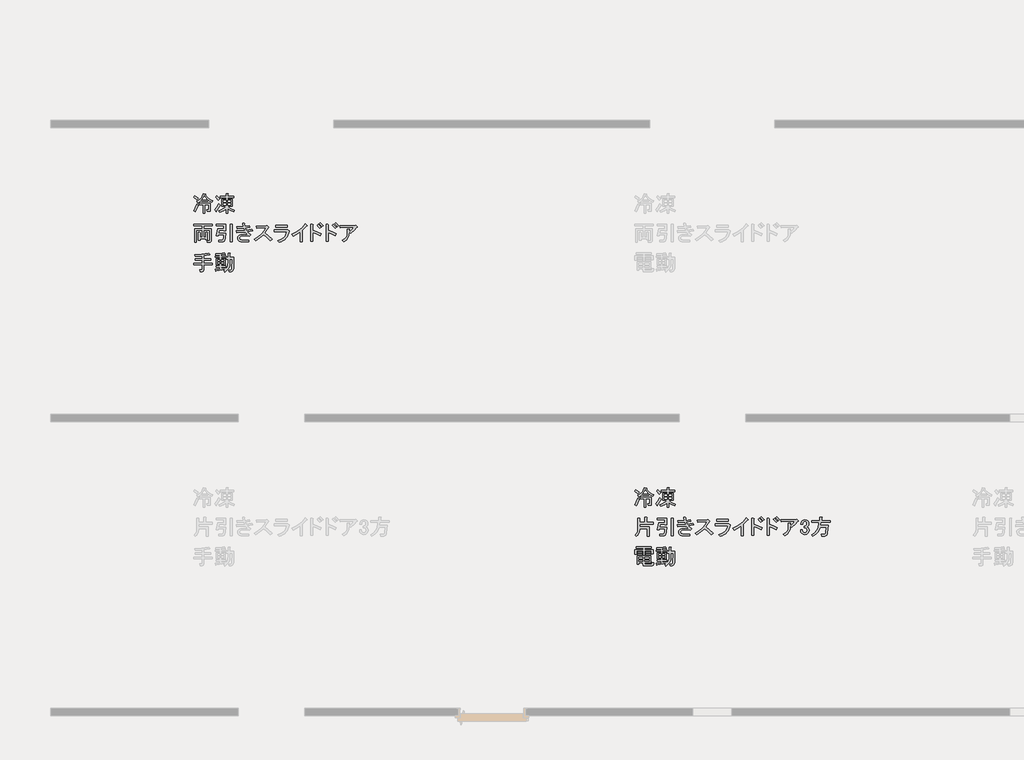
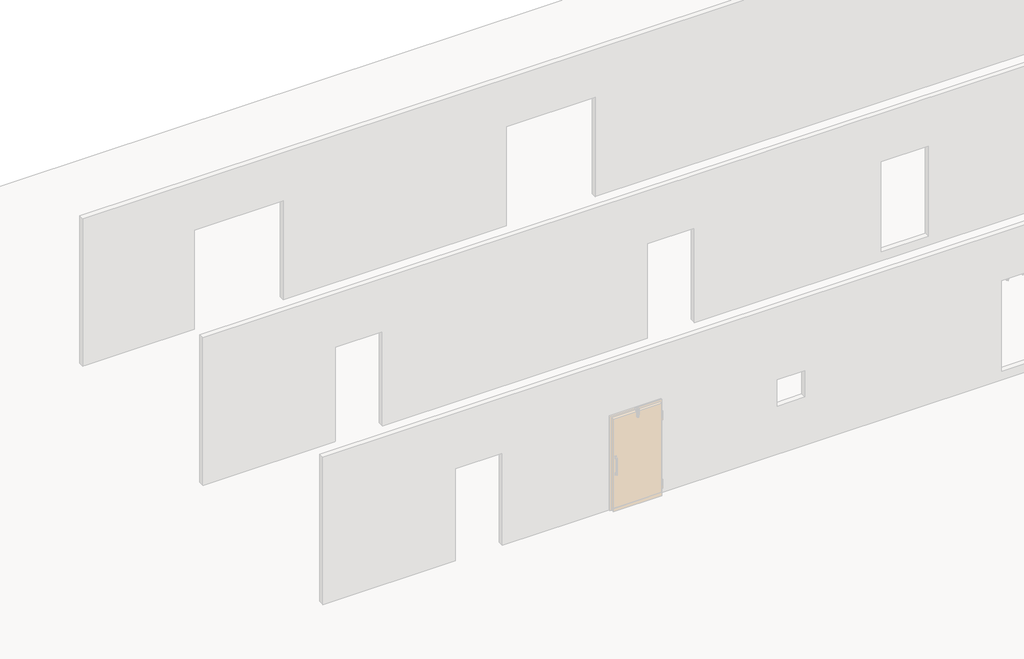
# One storey, part 98 of 117: 2 proxies.
"""IFC4 building model written with IfcOpenShell, lengths in millimetres."""

from ifc_helpers import new_model, si_unit, frame, origin, place, context, project, spatial, polyline, outline, extrude, element, save

model = new_model("IFC4")

# Units and contexts
model_context = context("Model", 3, world=origin())
ifc_project = project(units=[si_unit("LENGTHUNIT", "METRE", prefix="MILLI")], contexts=[model_context])

# Site, building, storey
site = spatial("IfcSite", under=ifc_project)
building = spatial("IfcBuilding", under=site)
storey = spatial("IfcBuildingStorey", under=building, Name="レベル 1", Elevation=500.0)

# Proxies
placement = place(None, origin())
element("IfcBuildingElementProxy", 1, Name="200㎜\u3000MS Pゴシック", ObjectType="200㎜\u3000MS Pゴシック", at=placement, inside=storey, context=model_context, shape_type="SweptSolid", body=[
    extrude(outline(polyline([(4383.6029468, 26948.5050774), (4417.2964447, 26967.9021871), (4443.6621457, 26991.6097656), (4462.7000496, 27019.6278129), (4474.4101566, 27051.9563291), (4505.4455321, 27043.9101206), (4506.882355, 27040.174381), (4501.997157, 27038.1628289), (4520.8195376, 27010.6476696), (4543.9523869, 26987.874026), (4571.3957051, 26969.8418981), (4603.149492, 26956.5512859), (4591.6549085, 26932.4126605), (4562.6310851, 26945.9187961), (4533.0325326, 26965.7469527), (4533.0325326, 26946.2061607), (4450.2715312, 26946.2061607), (4450.2715312, 26964.5974943), (4425.8455412, 26942.7577856), (4396.2469887, 26923.2169937), (4383.6029468, 26948.5050774)]), holes=[polyline([(4530.7336159, 26968.0458694), (4504.5834383, 26995.3455052), (4488.2036568, 27022.0704119), (4474.4101566, 26993.0465885), (4453.7199063, 26968.0458694), (4530.7336159, 26968.0458694)])]), frame((0.0, 0.0, 500.0), z_axis=(0.0, 0.0, 1.0), x_axis=(1.0, 0.0, 0.0)), (0.0, 0.0, 1.0), 25.0),
    extrude(outline(polyline([(4341.0729878, 26822.0646587), (4364.0621548, 26861.7209718), (4382.4534884, 26904.82566), (4403.1437388, 26892.1816181), (4385.6144989, 26848.2148362), (4367.5105299, 26812.8689919), (4366.9358007, 26806.5469709), (4362.9126965, 26805.9722417), (4341.0729878, 26822.0646587)])), frame((0.0, 0.0, 500.0), z_axis=(0.0, 0.0, 1.0), x_axis=(1.0, 0.0, 0.0)), (0.0, 0.0, 1.0), 25.0),
    extrude(outline(polyline([(4420.3856141, 26897.9289099), (4420.3856141, 26919.7686186), (4569.8151998, 26919.7686186), (4569.8151998, 26825.5130337), (4565.7920956, 26814.3058148), (4553.7227829, 26810.5700752), (4528.4346991, 26810.5700752), (4523.8368657, 26832.4097838), (4542.2281994, 26832.4097838), (4545.6765744, 26833.5592422), (4546.8260328, 26837.0076172), (4546.8260328, 26897.9289099), (4492.8014902, 26897.9289099), (4492.8014902, 26786.4314498), (4469.8123232, 26786.4314498), (4469.8123232, 26897.9289099), (4420.3856141, 26897.9289099)])), frame((0.0, 0.0, 500.0), z_axis=(0.0, 0.0, 1.0), x_axis=(1.0, 0.0, 0.0)), (0.0, 0.0, 1.0), 25.0),
    extrude(outline(polyline([(4358.314863, 27022.0704119), (4379.0051134, 27009.1390055), (4401.9942804, 26988.7361197), (4385.9018635, 26965.7469527), (4344.5213628, 27000.2307032), (4358.314863, 27022.0704119)])), frame((0.0, 0.0, 500.0), z_axis=(0.0, 0.0, 1.0), x_axis=(1.0, 0.0, 0.0)), (0.0, 0.0, 1.0), 25.0),
    extrude(outline(polyline([(4652.5762012, 26812.8689919), (4652.8635658, 26808.2711584), (4649.1278261, 26808.2711584), (4629.5870341, 26832.4097838), (4658.0361283, 26868.9050865), (4683.6115767, 26911.7224101), (4702.0029103, 26894.4805349), (4678.7263787, 26852.2379404), (4652.5762012, 26812.8689919)])), frame((0.0, 0.0, 500.0), z_axis=(0.0, 0.0, 1.0), x_axis=(1.0, 0.0, 0.0)), (0.0, 0.0, 1.0), 25.0),
    extrude(outline(polyline([(4659.4729513, 27022.0704119), (4696.2556185, 26981.8393696), (4675.5653682, 26962.2985776), (4639.9321593, 27004.8285366), (4659.4729513, 27022.0704119)])), frame((0.0, 0.0, 500.0), z_axis=(0.0, 0.0, 1.0), x_axis=(1.0, 0.0, 0.0)), (0.0, 0.0, 1.0), 25.0),
    extrude(outline(polyline([(4806.6036203, 26787.5809081), (4783.6144533, 26787.5809081), (4783.6144533, 26849.6516591), (4769.0307005, 26835.4989532), (4749.4180673, 26821.7772941), (4695.1061602, 26795.6271166), (4685.9104934, 26822.0646587), (4715.5090459, 26832.9126719), (4741.0844943, 26845.9159195), (4762.6368384, 26861.0744015), (4780.1660782, 26878.3881179), (4724.9920773, 26878.3881179), (4724.9920773, 26977.2415362), (4783.6144533, 26977.2415362), (4783.6144533, 26996.7823282), (4703.1523687, 26996.7823282), (4703.1523687, 27018.6220369), (4783.6144533, 27018.6220369), (4783.6144533, 27053.1057874), (4805.454162, 27053.1057874), (4810.33936, 27050.8068707), (4806.6036203, 27046.2090373), (4806.6036203, 27018.6220369), (4887.065705, 27018.6220369), (4887.065705, 26996.7823282), (4806.6036203, 26996.7823282), (4806.6036203, 26977.2415362), (4866.3754546, 26977.2415362), (4866.3754546, 26878.3881179), (4807.7530787, 26878.3881179), (4826.1444123, 26862.295701), (4846.8346627, 26848.5022008), (4895.1119134, 26827.8119504), (4884.7667883, 26802.5238667), (4841.6621001, 26823.5014816), (4806.6036203, 26849.6516591), (4806.6036203, 26787.5809081)]), holes=[polyline([(4806.6036203, 26937.0104939), (4846.8346627, 26937.0104939), (4846.8346627, 26958.8502026), (4806.6036203, 26958.8502026), (4806.6036203, 26937.0104939)]), polyline([(4806.6036203, 26896.7794516), (4846.8346627, 26896.7794516), (4846.8346627, 26918.6191602), (4806.6036203, 26918.6191602), (4806.6036203, 26896.7794516)]), polyline([(4744.5328693, 26896.7794516), (4783.6144533, 26896.7794516), (4783.6144533, 26918.6191602), (4744.5328693, 26918.6191602), (4744.5328693, 26896.7794516)]), polyline([(4744.5328693, 26937.0104939), (4783.6144533, 26937.0104939), (4783.6144533, 26958.8502026), (4744.5328693, 26958.8502026), (4744.5328693, 26937.0104939)])]), frame((0.0, 0.0, 500.0), z_axis=(0.0, 0.0, 1.0), x_axis=(1.0, 0.0, 0.0)), (0.0, 0.0, 1.0), 25.0),
    extrude(outline(polyline([(4480.1574484, 26611.7252868), (4480.1574484, 26576.0920778), (4581.3097833, 26576.0920778), (4581.3097833, 26407.1217001), (4577.2866791, 26395.0523874), (4565.2173664, 26391.0292832), (4529.5841575, 26391.0292832), (4526.1357824, 26412.8689919), (4553.7227829, 26412.8689919), (4557.1711579, 26414.0184502), (4558.3206163, 26417.4668253), (4558.3206163, 26554.2523692), (4480.1574484, 26554.2523692), (4480.1574484, 26458.8473259), (4507.7444488, 26458.8473259), (4507.7444488, 26524.366452), (4529.5841575, 26524.366452), (4534.4693555, 26522.0675353), (4530.7336159, 26517.4697019), (4530.7336159, 26426.6624921), (4507.7444488, 26426.6624921), (4507.7444488, 26437.0076172), (4429.5812809, 26437.0076172), (4429.5812809, 26417.4668253), (4406.5921138, 26417.4668253), (4406.5921138, 26524.366452), (4428.4318225, 26524.366452), (4433.3170205, 26522.0675353), (4429.5812809, 26517.4697019), (4429.5812809, 26458.8473259), (4457.1682813, 26458.8473259), (4457.1682813, 26554.2523692), (4379.0051134, 26554.2523692), (4379.0051134, 26392.1787415), (4356.0159463, 26392.1787415), (4356.0159463, 26576.0920778), (4457.1682813, 26576.0920778), (4457.1682813, 26611.7252868), (4342.2224461, 26611.7252868), (4342.2224461, 26633.5649954), (4595.1032836, 26633.5649954), (4595.1032836, 26611.7252868), (4480.1574484, 26611.7252868)])), frame((0.0, 0.0, 500.0), z_axis=(0.0, 0.0, 1.0), x_axis=(1.0, 0.0, 0.0)), (0.0, 0.0, 1.0), 25.0),
    extrude(outline(polyline([(4780.1660782, 26511.7224101), (4770.9704114, 26441.8928152), (4764.6483905, 26419.2628539), (4757.1769112, 26404.8227834), (4746.5444214, 26397.0639395), (4730.7393691, 26394.4776582), (4684.761035, 26394.4776582), (4681.31266, 26416.3173669), (4723.842619, 26416.3173669), (4734.4751088, 26418.328919), (4741.0844943, 26424.3635754), (4749.1307027, 26448.2148362), (4754.8779945, 26489.8827014), (4677.8642849, 26489.8827014), (4675.5653682, 26478.3881179), (4651.4267428, 26481.836493), (4667.5191597, 26574.9426195), (4753.7285361, 26574.9426195), (4753.7285361, 26611.7252868), (4647.9783678, 26611.7252868), (4647.9783678, 26633.5649954), (4776.7177032, 26633.5649954), (4776.7177032, 26547.355619), (4753.7285361, 26547.355619), (4753.7285361, 26553.1029108), (4689.3588684, 26553.1029108), (4682.4621183, 26511.7224101), (4780.1660782, 26511.7224101)])), frame((0.0, 0.0, 500.0), z_axis=(0.0, 0.0, 1.0), x_axis=(1.0, 0.0, 0.0)), (0.0, 0.0, 1.0), 25.0),
    extrude(outline(polyline([(4866.3754546, 26396.7765749), (4843.3862876, 26396.7765749), (4843.3862876, 26637.0133705), (4865.2259963, 26637.0133705), (4870.1111943, 26634.7144538), (4866.3754546, 26630.1166204), (4866.3754546, 26396.7765749)])), frame((0.0, 0.0, 500.0), z_axis=(0.0, 0.0, 1.0), x_axis=(1.0, 0.0, 0.0)), (0.0, 0.0, 1.0), 25.0),
    extrude(outline(polyline([(5046.8404159, 26582.988828), (5060.6339161, 26554.2523692), (5133.0497923, 26570.3447861), (5143.3949175, 26546.2061607), (5073.277958, 26533.5621188), (5093.1061146, 26511.147681), (5118.1068337, 26489.8827014), (5098.5660418, 26470.3419095), (5061.4960099, 26477.2386596), (5033.0469157, 26479.5375763), (4995.1147901, 26476.0892012), (4982.1833836, 26471.7787324), (4973.2750814, 26465.7440761), (4967.240425, 26457.410503), (4965.2288729, 26448.5022008), (4966.9530605, 26438.1570756), (4972.125623, 26430.1108671), (4989.6548629, 26423.214117), (5023.8512489, 26420.9152003), (5093.9682084, 26420.9152003), (5089.3703749, 26395.6271166), (5019.2534155, 26395.6271166), (4980.1718315, 26400.22495), (4965.8036021, 26405.9722417), (4954.8837478, 26414.0184502), (4944.5386226, 26429.8235025), (4941.0902475, 26449.6516591), (4944.251258, 26465.7440761), (4953.7342894, 26479.5375763), (4966.0909667, 26488.0866728), (4983.6202066, 26494.1931703), (5034.196374, 26499.0783683), (5075.5768747, 26495.6299932), (5046.8404159, 26528.9642854), (4990.2295921, 26523.7917228), (4928.4462057, 26522.0675353), (4924.9978306, 26546.2061607), (4981.896019, 26546.7808899), (5035.3458324, 26550.8039941), (5022.7017905, 26579.5404529), (4934.1934974, 26576.0920778), (4931.8945807, 26599.0812449), (5016.9544988, 26601.3801616), (5007.7588319, 26648.507954), (5033.0469157, 26648.507954), (5039.081572, 26645.059579), (5034.196374, 26639.3122872), (5039.9436658, 26604.8285366), (5100.8649585, 26616.3231202), (5108.9111669, 26593.3339531), (5046.8404159, 26582.988828)])), frame((0.0, 0.0, 500.0), z_axis=(0.0, 0.0, 1.0), x_axis=(1.0, 0.0, 0.0)), (0.0, 0.0, 1.0), 25.0),
    extrude(outline(polyline([(5311.2618152, 26517.4697019), (5360.4011598, 26476.6639304), (5408.9657751, 26430.1108671), (5385.9766081, 26410.5700752), (5338.5614511, 26457.1231384), (5292.8704816, 26495.6299932), (5244.8805954, 26449.9390237), (5190.5686883, 26409.4206168), (5168.7289796, 26428.9614088), (5224.1903451, 26468.6177219), (5268.7318562, 26508.2740351), (5302.353513, 26547.9303482), (5325.0553154, 26587.5866614), (5199.7643551, 26579.5404529), (5196.31598, 26607.1274534), (5329.6531489, 26612.8747451), (5343.4466491, 26616.3231202), (5361.8379827, 26597.9317865), (5364.7116286, 26591.322401), (5357.2401493, 26587.5866614), (5311.2618152, 26517.4697019)])), frame((0.0, 0.0, 500.0), z_axis=(0.0, 0.0, 1.0), x_axis=(1.0, 0.0, 0.0)), (0.0, 0.0, 1.0), 25.0),
    extrude(outline(polyline([(5615.1786035, 26597.9317865), (5456.5533509, 26597.9317865), (5456.5533509, 26623.2198703), (5615.1786035, 26623.2198703), (5615.1786035, 26597.9317865)])), frame((0.0, 0.0, 500.0), z_axis=(0.0, 0.0, 1.0), x_axis=(1.0, 0.0, 0.0)), (0.0, 0.0, 1.0), 25.0),
    extrude(outline(polyline([(5485.2898097, 26411.7195335), (5534.9320423, 26430.039026), (5555.1732855, 26442.1622195), (5572.3612799, 26456.2610446), (5586.4960256, 26472.3355013), (5597.5775225, 26490.3855895), (5605.6057707, 26510.4113092), (5610.5807701, 26532.4126605), (5435.8631006, 26532.4126605), (5435.8631006, 26557.7007442), (5611.7302284, 26557.7007442), (5622.0753536, 26561.1491193), (5642.765604, 26548.5050774), (5645.6392498, 26543.0451502), (5640.4666872, 26538.1599522), (5634.3422295, 26510.6807135), (5625.1645229, 26485.7159149), (5612.9335677, 26463.2655565), (5597.6493636, 26443.3296382), (5579.3119109, 26425.90816), (5557.9212093, 26411.001122), (5533.4772591, 26398.6085242), (5505.9800601, 26388.7303665), (5485.2898097, 26411.7195335)])), frame((0.0, 0.0, 500.0), z_axis=(0.0, 0.0, 1.0), x_axis=(1.0, 0.0, 0.0)), (0.0, 0.0, 1.0), 25.0),
    extrude(outline(polyline([(5677.6631595, 26496.7794516), (5734.3458245, 26524.6538166), (5783.7006925, 26557.7007442), (5825.7277635, 26595.9202344), (5860.4270375, 26639.3122872), (5882.2667462, 26620.9209536), (5884.8530275, 26614.8862972), (5874.2205377, 26610.5758284), (5849.2198186, 26581.552005), (5817.8970785, 26551.9534525), (5817.8970785, 26395.6271166), (5791.4595364, 26395.6271166), (5791.4595364, 26530.1137438), (5747.780119, 26500.5151912), (5697.2039515, 26473.7902845), (5677.6631595, 26496.7794516)])), frame((0.0, 0.0, 500.0), z_axis=(0.0, 0.0, 1.0), x_axis=(1.0, 0.0, 0.0)), (0.0, 0.0, 1.0), 25.0),
    extrude(outline(polyline([(6062.6397508, 26480.6870346), (6007.1783853, 26506.5498475), (5962.6368742, 26522.0675353), (5962.6368742, 26402.5238667), (5936.1993321, 26402.5238667), (5936.1993321, 26632.4155371), (5959.1884991, 26632.4155371), (5966.947343, 26629.5418912), (5962.6368742, 26623.2198703), (5962.6368742, 26550.8039941), (6019.247698, 26531.8379313), (6076.433251, 26507.1245767), (6062.6397508, 26480.6870346)])), frame((0.0, 0.0, 500.0), z_axis=(0.0, 0.0, 1.0), x_axis=(1.0, 0.0, 0.0)), (0.0, 0.0, 1.0), 25.0),
    extrude(outline(polyline([(6060.3408341, 26581.8393696), (6040.8000421, 26603.6790783), (6021.2592501, 26620.9209536), (6036.2022087, 26632.4155371), (6055.7430007, 26615.1736618), (6075.2837927, 26593.3339531), (6060.3408341, 26581.8393696)])), frame((0.0, 0.0, 500.0), z_axis=(0.0, 0.0, 1.0), x_axis=(1.0, 0.0, 0.0)), (0.0, 0.0, 1.0), 25.0),
    extrude(outline(polyline([(6087.9278345, 26603.6790783), (6070.9733238, 26622.9325057), (6049.9957089, 26641.6112039), (6064.9386675, 26653.1057874), (6084.1920949, 26636.7260059), (6102.8707931, 26615.1736618), (6087.9278345, 26603.6790783)])), frame((0.0, 0.0, 500.0), z_axis=(0.0, 0.0, 1.0), x_axis=(1.0, 0.0, 0.0)), (0.0, 0.0, 1.0), 25.0),
    extrude(outline(polyline([(6271.5653009, 26480.6870346), (6216.1039354, 26506.5498475), (6171.5624242, 26522.0675353), (6171.5624242, 26402.5238667), (6145.1248821, 26402.5238667), (6145.1248821, 26632.4155371), (6168.1140492, 26632.4155371), (6175.872893, 26629.5418912), (6171.5624242, 26623.2198703), (6171.5624242, 26550.8039941), (6228.1732481, 26531.8379313), (6285.3588011, 26507.1245767), (6271.5653009, 26480.6870346)])), frame((0.0, 0.0, 500.0), z_axis=(0.0, 0.0, 1.0), x_axis=(1.0, 0.0, 0.0)), (0.0, 0.0, 1.0), 25.0),
    extrude(outline(polyline([(6269.2663841, 26581.8393696), (6249.7255922, 26603.6790783), (6230.1848002, 26620.9209536), (6245.1277588, 26632.4155371), (6264.6685507, 26615.1736618), (6284.2093427, 26593.3339531), (6269.2663841, 26581.8393696)])), frame((0.0, 0.0, 500.0), z_axis=(0.0, 0.0, 1.0), x_axis=(1.0, 0.0, 0.0)), (0.0, 0.0, 1.0), 25.0),
    extrude(outline(polyline([(6296.8533846, 26603.6790783), (6279.8988739, 26622.9325057), (6258.921259, 26641.6112039), (6273.8642176, 26653.1057874), (6293.117645, 26636.7260059), (6311.7963432, 26615.1736618), (6296.8533846, 26603.6790783)])), frame((0.0, 0.0, 500.0), z_axis=(0.0, 0.0, 1.0), x_axis=(1.0, 0.0, 0.0)), (0.0, 0.0, 1.0), 25.0),
    extrude(outline(polyline([(6459.8006006, 26530.1137438), (6455.9930198, 26488.8769254), (6442.2713607, 26452.525305), (6418.6356234, 26421.0588826), (6385.0858077, 26394.4776582), (6365.5450157, 26416.3173669), (6395.2154094, 26436.5765704), (6416.4085478, 26460.5715135), (6429.1244308, 26488.3021962), (6433.3630585, 26519.7686186), (6433.3630585, 26569.1953277), (6457.5016839, 26569.1953277), (6463.2489756, 26566.6090464), (6459.8006006, 26561.1491193), (6459.8006006, 26531.2632021), (6496.2959033, 26562.011213), (6523.0208099, 26592.1844948), (6335.6590986, 26585.2877447), (6333.3601819, 26611.7252868), (6542.5616019, 26617.4725785), (6550.6078104, 26619.7714952), (6567.8496857, 26599.0812449), (6568.1370503, 26595.9202344), (6562.1023939, 26595.6328698), (6524.1702683, 26552.240817), (6479.3413926, 26511.7224101), (6459.8006006, 26530.1137438)])), frame((0.0, 0.0, 500.0), z_axis=(0.0, 0.0, 1.0), x_axis=(1.0, 0.0, 0.0)), (0.0, 0.0, 1.0), 25.0),
    extrude(outline(polyline([(4358.314863, 26219.7714952), (4454.582, 26226.0935162), (4545.6765744, 26242.7606623), (4560.619533, 26224.3693286), (4563.2058143, 26217.4725785), (4554.8722412, 26217.4725785), (4481.3069067, 26205.977995), (4481.3069067, 26164.5974943), (4572.1141165, 26164.5974943), (4572.1141165, 26142.7577856), (4481.3069067, 26142.7577856), (4481.3069067, 26103.6762017), (4596.2527419, 26103.6762017), (4596.2527419, 26081.836493), (4481.3069067, 26081.836493), (4481.3069067, 26012.8689919), (4476.4217087, 25997.3513041), (4470.3152112, 25993.4718822), (4461.7661147, 25992.1787415), (4431.8801976, 25992.1787415), (4426.1329058, 26017.4668253), (4454.8693646, 26017.4668253), (4458.3177397, 26020.9152003), (4458.3177397, 26081.836493), (4341.0729878, 26081.836493), (4341.0729878, 26103.6762017), (4458.3177397, 26103.6762017), (4458.3177397, 26142.7577856), (4365.2116132, 26142.7577856), (4365.2116132, 26164.5974943), (4458.3177397, 26164.5974943), (4458.3177397, 26202.5296199), (4364.0621548, 26197.9317865), (4358.314863, 26219.7714952)])), frame((0.0, 0.0, 500.0), z_axis=(0.0, 0.0, 1.0), x_axis=(1.0, 0.0, 0.0)), (0.0, 0.0, 1.0), 25.0),
    extrude(outline(polyline([(4751.4296194, 26007.1217001), (4775.5682448, 26024.3635754), (4646.8289094, 26000.22495), (4644.8173573, 25995.339752), (4641.0816176, 25996.7765749), (4634.1848675, 26022.0646587), (4700.853452, 26030.1108671), (4700.853452, 26050.8011175), (4646.8289094, 26050.8011175), (4646.8289094, 26069.1924511), (4700.853452, 26069.1924511), (4700.853452, 26086.4343264), (4674.4159099, 26086.4343264), (4649.1278261, 26086.4343264), (4649.1278261, 26168.0458694), (4700.853452, 26168.0458694), (4700.853452, 26184.1382863), (4634.1848675, 26184.1382863), (4634.1848675, 26202.5296199), (4700.853452, 26202.5296199), (4700.853452, 26216.3231202), (4643.3805344, 26214.0242035), (4639.9321593, 26233.5649954), (4698.2671707, 26236.7260059), (4760.6252863, 26246.2090373), (4770.9704114, 26226.6682453), (4770.9704114, 26222.6451411), (4764.0736613, 26224.3693286), (4720.3942439, 26218.6220369), (4720.3942439, 26202.5296199), (4783.6144533, 26202.5296199), (4783.6144533, 26184.1382863), (4720.3942439, 26184.1382863), (4720.3942439, 26168.0458694), (4773.2693281, 26168.0458694), (4773.2693281, 26086.4343264), (4720.3942439, 26086.4343264), (4720.3942439, 26069.1924511), (4777.8671615, 26069.1924511), (4777.8671615, 26050.8011175), (4720.3942439, 26050.8011175), (4720.3942439, 26033.5592422), (4777.8671615, 26042.754909), (4777.8671615, 26026.6624921), (4792.5227555, 26043.5451616), (4803.1552453, 26064.3072531), (4809.7646308, 26088.9487665), (4812.3509121, 26117.4697019), (4813.5003705, 26162.2985776), (4785.91337, 26162.2985776), (4785.91337, 26184.1382863), (4813.5003705, 26184.1382863), (4813.5003705, 26242.7606623), (4835.3400791, 26242.7606623), (4840.2252771, 26240.4617456), (4836.4895375, 26235.8639122), (4836.4895375, 26184.1382863), (4887.065705, 26184.1382863), (4884.7667883, 26032.4097838), (4882.4678716, 26014.3058148), (4876.7205798, 26001.3744083), (4867.524913, 25993.6155645), (4854.8808711, 25991.0292832), (4823.8454956, 25991.0292832), (4820.3971206, 26012.8689919), (4846.8346627, 26012.8689919), (4852.9411602, 26014.3776559), (4857.4671524, 26018.9036482), (4861.7776212, 26037.0076172), (4865.2259963, 26162.2985776), (4836.4895375, 26162.2985776), (4835.3400791, 26108.2740351), (4830.5267223, 26070.8447975), (4817.2361101, 26037.869711), (4795.4682426, 26009.3487757), (4765.2231197, 25985.2819914), (4751.4296194, 26007.1217001)]), holes=[polyline([(4720.3942439, 26120.9180769), (4720.3942439, 26100.2278266), (4753.7285361, 26100.2278266), (4753.7285361, 26120.9180769), (4720.3942439, 26120.9180769)]), polyline([(4720.3942439, 26154.2523692), (4720.3942439, 26134.7115772), (4753.7285361, 26134.7115772), (4753.7285361, 26154.2523692), (4720.3942439, 26154.2523692)]), polyline([(4668.6686181, 26120.9180769), (4668.6686181, 26100.2278266), (4700.853452, 26100.2278266), (4700.853452, 26120.9180769), (4668.6686181, 26120.9180769)]), polyline([(4668.6686181, 26154.2523692), (4668.6686181, 26134.7115772), (4700.853452, 26134.7115772), (4700.853452, 26154.2523692), (4668.6686181, 26154.2523692)])]), frame((0.0, 0.0, 500.0), z_axis=(0.0, 0.0, 1.0), x_axis=(1.0, 0.0, 0.0)), (0.0, 0.0, 1.0), 25.0),
])
element("IfcBuildingElementProxy", 2, Name="200㎜\u3000MS Pゴシック", ObjectType="200㎜\u3000MS Pゴシック", at=placement, inside=storey, context=model_context, shape_type="SweptSolid", body=[
    extrude(outline(polyline([(10383.6029468, 22948.5050774), (10417.2964447, 22967.9021871), (10443.6621457, 22991.6097656), (10462.7000496, 23019.6278129), (10474.4101566, 23051.9563291), (10505.4455321, 23043.9101206), (10506.882355, 23040.174381), (10501.997157, 23038.1628289), (10520.8195376, 23010.6476696), (10543.9523869, 22987.874026), (10571.3957051, 22969.8418981), (10603.149492, 22956.5512859), (10591.6549085, 22932.4126605), (10562.6310851, 22945.9187961), (10533.0325326, 22965.7469527), (10533.0325326, 22946.2061607), (10450.2715312, 22946.2061607), (10450.2715312, 22964.5974943), (10425.8455412, 22942.7577856), (10396.2469887, 22923.2169937), (10383.6029468, 22948.5050774)]), holes=[polyline([(10530.7336159, 22968.0458694), (10504.5834383, 22995.3455052), (10488.2036568, 23022.0704119), (10474.4101566, 22993.0465885), (10453.7199063, 22968.0458694), (10530.7336159, 22968.0458694)])]), frame((0.0, 0.0, 500.0), z_axis=(0.0, 0.0, 1.0), x_axis=(1.0, 0.0, 0.0)), (0.0, 0.0, 1.0), 25.0),
    extrude(outline(polyline([(10341.0729878, 22822.0646587), (10364.0621548, 22861.7209718), (10382.4534884, 22904.82566), (10403.1437388, 22892.1816181), (10385.6144989, 22848.2148362), (10367.5105299, 22812.8689919), (10366.9358007, 22806.5469709), (10362.9126965, 22805.9722417), (10341.0729878, 22822.0646587)])), frame((0.0, 0.0, 500.0), z_axis=(0.0, 0.0, 1.0), x_axis=(1.0, 0.0, 0.0)), (0.0, 0.0, 1.0), 25.0),
    extrude(outline(polyline([(10420.3856141, 22897.9289099), (10420.3856141, 22919.7686186), (10569.8151998, 22919.7686186), (10569.8151998, 22825.5130337), (10565.7920956, 22814.3058148), (10553.7227829, 22810.5700752), (10528.4346991, 22810.5700752), (10523.8368657, 22832.4097838), (10542.2281994, 22832.4097838), (10545.6765744, 22833.5592422), (10546.8260328, 22837.0076172), (10546.8260328, 22897.9289099), (10492.8014902, 22897.9289099), (10492.8014902, 22786.4314498), (10469.8123232, 22786.4314498), (10469.8123232, 22897.9289099), (10420.3856141, 22897.9289099)])), frame((0.0, 0.0, 500.0), z_axis=(0.0, 0.0, 1.0), x_axis=(1.0, 0.0, 0.0)), (0.0, 0.0, 1.0), 25.0),
    extrude(outline(polyline([(10358.314863, 23022.0704119), (10379.0051134, 23009.1390055), (10401.9942804, 22988.7361197), (10385.9018635, 22965.7469527), (10344.5213628, 23000.2307032), (10358.314863, 23022.0704119)])), frame((0.0, 0.0, 500.0), z_axis=(0.0, 0.0, 1.0), x_axis=(1.0, 0.0, 0.0)), (0.0, 0.0, 1.0), 25.0),
    extrude(outline(polyline([(10652.5762012, 22812.8689919), (10652.8635658, 22808.2711584), (10649.1278261, 22808.2711584), (10629.5870341, 22832.4097838), (10658.0361283, 22868.9050865), (10683.6115767, 22911.7224101), (10702.0029103, 22894.4805349), (10678.7263787, 22852.2379404), (10652.5762012, 22812.8689919)])), frame((0.0, 0.0, 500.0), z_axis=(0.0, 0.0, 1.0), x_axis=(1.0, 0.0, 0.0)), (0.0, 0.0, 1.0), 25.0),
    extrude(outline(polyline([(10659.4729513, 23022.0704119), (10696.2556185, 22981.8393696), (10675.5653682, 22962.2985776), (10639.9321593, 23004.8285366), (10659.4729513, 23022.0704119)])), frame((0.0, 0.0, 500.0), z_axis=(0.0, 0.0, 1.0), x_axis=(1.0, 0.0, 0.0)), (0.0, 0.0, 1.0), 25.0),
    extrude(outline(polyline([(10806.6036203, 22787.5809081), (10783.6144533, 22787.5809081), (10783.6144533, 22849.6516591), (10769.0307005, 22835.4989532), (10749.4180673, 22821.7772941), (10695.1061602, 22795.6271166), (10685.9104934, 22822.0646587), (10715.5090459, 22832.9126719), (10741.0844943, 22845.9159195), (10762.6368384, 22861.0744015), (10780.1660782, 22878.3881179), (10724.9920773, 22878.3881179), (10724.9920773, 22977.2415362), (10783.6144533, 22977.2415362), (10783.6144533, 22996.7823282), (10703.1523687, 22996.7823282), (10703.1523687, 23018.6220369), (10783.6144533, 23018.6220369), (10783.6144533, 23053.1057874), (10805.454162, 23053.1057874), (10810.33936, 23050.8068707), (10806.6036203, 23046.2090373), (10806.6036203, 23018.6220369), (10887.065705, 23018.6220369), (10887.065705, 22996.7823282), (10806.6036203, 22996.7823282), (10806.6036203, 22977.2415362), (10866.3754546, 22977.2415362), (10866.3754546, 22878.3881179), (10807.7530787, 22878.3881179), (10826.1444123, 22862.295701), (10846.8346627, 22848.5022008), (10895.1119134, 22827.8119504), (10884.7667883, 22802.5238667), (10841.6621001, 22823.5014816), (10806.6036203, 22849.6516591), (10806.6036203, 22787.5809081)]), holes=[polyline([(10806.6036203, 22937.0104939), (10846.8346627, 22937.0104939), (10846.8346627, 22958.8502026), (10806.6036203, 22958.8502026), (10806.6036203, 22937.0104939)]), polyline([(10806.6036203, 22896.7794516), (10846.8346627, 22896.7794516), (10846.8346627, 22918.6191602), (10806.6036203, 22918.6191602), (10806.6036203, 22896.7794516)]), polyline([(10744.5328693, 22896.7794516), (10783.6144533, 22896.7794516), (10783.6144533, 22918.6191602), (10744.5328693, 22918.6191602), (10744.5328693, 22896.7794516)]), polyline([(10744.5328693, 22937.0104939), (10783.6144533, 22937.0104939), (10783.6144533, 22958.8502026), (10744.5328693, 22958.8502026), (10744.5328693, 22937.0104939)])]), frame((0.0, 0.0, 500.0), z_axis=(0.0, 0.0, 1.0), x_axis=(1.0, 0.0, 0.0)), (0.0, 0.0, 1.0), 25.0),
    extrude(outline(polyline([(10408.8910305, 22637.0133705), (10414.9256869, 22633.5649954), (10410.0404889, 22627.8177037), (10410.0404889, 22579.5404529), (10481.3069067, 22579.5404529), (10481.3069067, 22648.507954), (10506.5949905, 22648.507954), (10512.6296468, 22645.059579), (10507.7444488, 22639.3122872), (10507.7444488, 22579.5404529), (10592.8043669, 22579.5404529), (10592.8043669, 22554.2523692), (10410.0404889, 22554.2523692), (10410.0404889, 22517.4697019), (10539.9292827, 22517.4697019), (10539.9292827, 22388.7303665), (10513.4917406, 22388.7303665), (10513.4917406, 22492.1816181), (10410.0404889, 22492.1816181), (10410.0404889, 22480.6870346), (10407.3105253, 22453.7466045), (10399.1206345, 22429.2487734), (10385.4708166, 22407.1935412), (10366.3610715, 22387.5809081), (10347.9697379, 22405.9722417), (10365.0679309, 22421.5617706), (10377.2809259, 22439.5938985), (10384.6087228, 22460.0686254), (10387.0513218, 22482.9859513), (10387.0513218, 22637.0133705), (10408.8910305, 22637.0133705)])), frame((0.0, 0.0, 500.0), z_axis=(0.0, 0.0, 1.0), x_axis=(1.0, 0.0, 0.0)), (0.0, 0.0, 1.0), 25.0),
    extrude(outline(polyline([(10866.3754546, 22396.7765749), (10843.3862876, 22396.7765749), (10843.3862876, 22637.0133705), (10865.2259963, 22637.0133705), (10870.1111943, 22634.7144538), (10866.3754546, 22630.1166204), (10866.3754546, 22396.7765749)])), frame((0.0, 0.0, 500.0), z_axis=(0.0, 0.0, 1.0), x_axis=(1.0, 0.0, 0.0)), (0.0, 0.0, 1.0), 25.0),
    extrude(outline(polyline([(10780.1660782, 22511.7224101), (10770.9704114, 22441.8928152), (10764.6483905, 22419.2628539), (10757.1769112, 22404.8227834), (10746.5444214, 22397.0639395), (10730.7393691, 22394.4776582), (10684.761035, 22394.4776582), (10681.31266, 22416.3173669), (10723.842619, 22416.3173669), (10734.4751088, 22418.328919), (10741.0844943, 22424.3635754), (10749.1307027, 22448.2148362), (10754.8779945, 22489.8827014), (10677.8642849, 22489.8827014), (10675.5653682, 22478.3881179), (10651.4267428, 22481.836493), (10667.5191597, 22574.9426195), (10753.7285361, 22574.9426195), (10753.7285361, 22611.7252868), (10647.9783678, 22611.7252868), (10647.9783678, 22633.5649954), (10776.7177032, 22633.5649954), (10776.7177032, 22547.355619), (10753.7285361, 22547.355619), (10753.7285361, 22553.1029108), (10689.3588684, 22553.1029108), (10682.4621183, 22511.7224101), (10780.1660782, 22511.7224101)])), frame((0.0, 0.0, 500.0), z_axis=(0.0, 0.0, 1.0), x_axis=(1.0, 0.0, 0.0)), (0.0, 0.0, 1.0), 25.0),
    extrude(outline(polyline([(11046.8404159, 22582.988828), (11060.6339161, 22554.2523692), (11133.0497923, 22570.3447861), (11143.3949175, 22546.2061607), (11073.277958, 22533.5621188), (11093.1061146, 22511.147681), (11118.1068337, 22489.8827014), (11098.5660418, 22470.3419095), (11061.4960099, 22477.2386596), (11033.0469157, 22479.5375763), (10995.1147901, 22476.0892012), (10982.1833836, 22471.7787324), (10973.2750814, 22465.7440761), (10967.240425, 22457.410503), (10965.2288729, 22448.5022008), (10966.9530605, 22438.1570756), (10972.125623, 22430.1108671), (10989.6548629, 22423.214117), (11023.8512489, 22420.9152003), (11093.9682084, 22420.9152003), (11089.3703749, 22395.6271166), (11019.2534155, 22395.6271166), (10980.1718315, 22400.22495), (10965.8036021, 22405.9722417), (10954.8837478, 22414.0184502), (10944.5386226, 22429.8235025), (10941.0902475, 22449.6516591), (10944.251258, 22465.7440761), (10953.7342894, 22479.5375763), (10966.0909667, 22488.0866728), (10983.6202066, 22494.1931703), (11034.196374, 22499.0783683), (11075.5768747, 22495.6299932), (11046.8404159, 22528.9642854), (10990.2295921, 22523.7917228), (10928.4462057, 22522.0675353), (10924.9978306, 22546.2061607), (10981.896019, 22546.7808899), (11035.3458324, 22550.8039941), (11022.7017905, 22579.5404529), (10934.1934974, 22576.0920778), (10931.8945807, 22599.0812449), (11016.9544988, 22601.3801616), (11007.7588319, 22648.507954), (11033.0469157, 22648.507954), (11039.081572, 22645.059579), (11034.196374, 22639.3122872), (11039.9436658, 22604.8285366), (11100.8649585, 22616.3231202), (11108.9111669, 22593.3339531), (11046.8404159, 22582.988828)])), frame((0.0, 0.0, 500.0), z_axis=(0.0, 0.0, 1.0), x_axis=(1.0, 0.0, 0.0)), (0.0, 0.0, 1.0), 25.0),
    extrude(outline(polyline([(11311.2618152, 22517.4697019), (11360.4011598, 22476.6639304), (11408.9657751, 22430.1108671), (11385.9766081, 22410.5700752), (11338.5614511, 22457.1231384), (11292.8704816, 22495.6299932), (11244.8805954, 22449.9390237), (11190.5686883, 22409.4206168), (11168.7289796, 22428.9614088), (11224.1903451, 22468.6177219), (11268.7318562, 22508.2740351), (11302.353513, 22547.9303482), (11325.0553154, 22587.5866614), (11199.7643551, 22579.5404529), (11196.31598, 22607.1274534), (11329.6531489, 22612.8747451), (11343.4466491, 22616.3231202), (11361.8379827, 22597.9317865), (11364.7116286, 22591.322401), (11357.2401493, 22587.5866614), (11311.2618152, 22517.4697019)])), frame((0.0, 0.0, 500.0), z_axis=(0.0, 0.0, 1.0), x_axis=(1.0, 0.0, 0.0)), (0.0, 0.0, 1.0), 25.0),
    extrude(outline(polyline([(11615.1786035, 22597.9317865), (11456.5533509, 22597.9317865), (11456.5533509, 22623.2198703), (11615.1786035, 22623.2198703), (11615.1786035, 22597.9317865)])), frame((0.0, 0.0, 500.0), z_axis=(0.0, 0.0, 1.0), x_axis=(1.0, 0.0, 0.0)), (0.0, 0.0, 1.0), 25.0),
    extrude(outline(polyline([(11485.2898097, 22411.7195335), (11534.9320423, 22430.039026), (11555.1732855, 22442.1622195), (11572.3612799, 22456.2610446), (11586.4960256, 22472.3355013), (11597.5775225, 22490.3855895), (11605.6057707, 22510.4113092), (11610.5807701, 22532.4126605), (11435.8631006, 22532.4126605), (11435.8631006, 22557.7007442), (11611.7302284, 22557.7007442), (11622.0753536, 22561.1491193), (11642.765604, 22548.5050774), (11645.6392498, 22543.0451502), (11640.4666872, 22538.1599522), (11634.3422295, 22510.6807135), (11625.1645229, 22485.7159149), (11612.9335677, 22463.2655565), (11597.6493636, 22443.3296382), (11579.3119109, 22425.90816), (11557.9212093, 22411.001122), (11533.4772591, 22398.6085242), (11505.9800601, 22388.7303665), (11485.2898097, 22411.7195335)])), frame((0.0, 0.0, 500.0), z_axis=(0.0, 0.0, 1.0), x_axis=(1.0, 0.0, 0.0)), (0.0, 0.0, 1.0), 25.0),
    extrude(outline(polyline([(11677.6631595, 22496.7794516), (11734.3458245, 22524.6538166), (11783.7006925, 22557.7007442), (11825.7277635, 22595.9202344), (11860.4270375, 22639.3122872), (11882.2667462, 22620.9209536), (11884.8530275, 22614.8862972), (11874.2205377, 22610.5758284), (11849.2198186, 22581.552005), (11817.8970785, 22551.9534525), (11817.8970785, 22395.6271166), (11791.4595364, 22395.6271166), (11791.4595364, 22530.1137438), (11747.780119, 22500.5151912), (11697.2039515, 22473.7902845), (11677.6631595, 22496.7794516)])), frame((0.0, 0.0, 500.0), z_axis=(0.0, 0.0, 1.0), x_axis=(1.0, 0.0, 0.0)), (0.0, 0.0, 1.0), 25.0),
    extrude(outline(polyline([(12062.6397508, 22480.6870346), (12007.1783853, 22506.5498475), (11962.6368742, 22522.0675353), (11962.6368742, 22402.5238667), (11936.1993321, 22402.5238667), (11936.1993321, 22632.4155371), (11959.1884991, 22632.4155371), (11966.947343, 22629.5418912), (11962.6368742, 22623.2198703), (11962.6368742, 22550.8039941), (12019.247698, 22531.8379313), (12076.433251, 22507.1245767), (12062.6397508, 22480.6870346)])), frame((0.0, 0.0, 500.0), z_axis=(0.0, 0.0, 1.0), x_axis=(1.0, 0.0, 0.0)), (0.0, 0.0, 1.0), 25.0),
    extrude(outline(polyline([(12060.3408341, 22581.8393696), (12040.8000421, 22603.6790783), (12021.2592501, 22620.9209536), (12036.2022087, 22632.4155371), (12055.7430007, 22615.1736618), (12075.2837927, 22593.3339531), (12060.3408341, 22581.8393696)])), frame((0.0, 0.0, 500.0), z_axis=(0.0, 0.0, 1.0), x_axis=(1.0, 0.0, 0.0)), (0.0, 0.0, 1.0), 25.0),
    extrude(outline(polyline([(12087.9278345, 22603.6790783), (12070.9733238, 22622.9325057), (12049.9957089, 22641.6112039), (12064.9386675, 22653.1057874), (12084.1920949, 22636.7260059), (12102.8707931, 22615.1736618), (12087.9278345, 22603.6790783)])), frame((0.0, 0.0, 500.0), z_axis=(0.0, 0.0, 1.0), x_axis=(1.0, 0.0, 0.0)), (0.0, 0.0, 1.0), 25.0),
    extrude(outline(polyline([(12271.5653009, 22480.6870346), (12216.1039354, 22506.5498475), (12171.5624242, 22522.0675353), (12171.5624242, 22402.5238667), (12145.1248821, 22402.5238667), (12145.1248821, 22632.4155371), (12168.1140492, 22632.4155371), (12175.872893, 22629.5418912), (12171.5624242, 22623.2198703), (12171.5624242, 22550.8039941), (12228.1732481, 22531.8379313), (12285.3588011, 22507.1245767), (12271.5653009, 22480.6870346)])), frame((0.0, 0.0, 500.0), z_axis=(0.0, 0.0, 1.0), x_axis=(1.0, 0.0, 0.0)), (0.0, 0.0, 1.0), 25.0),
    extrude(outline(polyline([(12269.2663841, 22581.8393696), (12249.7255922, 22603.6790783), (12230.1848002, 22620.9209536), (12245.1277588, 22632.4155371), (12264.6685507, 22615.1736618), (12284.2093427, 22593.3339531), (12269.2663841, 22581.8393696)])), frame((0.0, 0.0, 500.0), z_axis=(0.0, 0.0, 1.0), x_axis=(1.0, 0.0, 0.0)), (0.0, 0.0, 1.0), 25.0),
    extrude(outline(polyline([(12296.8533846, 22603.6790783), (12279.8988739, 22622.9325057), (12258.921259, 22641.6112039), (12273.8642176, 22653.1057874), (12293.117645, 22636.7260059), (12311.7963432, 22615.1736618), (12296.8533846, 22603.6790783)])), frame((0.0, 0.0, 500.0), z_axis=(0.0, 0.0, 1.0), x_axis=(1.0, 0.0, 0.0)), (0.0, 0.0, 1.0), 25.0),
    extrude(outline(polyline([(12459.8006006, 22530.1137438), (12455.9930198, 22488.8769254), (12442.2713607, 22452.525305), (12418.6356234, 22421.0588826), (12385.0858077, 22394.4776582), (12365.5450157, 22416.3173669), (12395.2154094, 22436.5765704), (12416.4085478, 22460.5715135), (12429.1244308, 22488.3021962), (12433.3630585, 22519.7686186), (12433.3630585, 22569.1953277), (12457.5016839, 22569.1953277), (12463.2489756, 22566.6090464), (12459.8006006, 22561.1491193), (12459.8006006, 22531.2632021), (12496.2959033, 22562.011213), (12523.0208099, 22592.1844948), (12335.6590986, 22585.2877447), (12333.3601819, 22611.7252868), (12542.5616019, 22617.4725785), (12550.6078104, 22619.7714952), (12567.8496857, 22599.0812449), (12568.1370503, 22595.9202344), (12562.1023939, 22595.6328698), (12524.1702683, 22552.240817), (12479.3413926, 22511.7224101), (12459.8006006, 22530.1137438)])), frame((0.0, 0.0, 500.0), z_axis=(0.0, 0.0, 1.0), x_axis=(1.0, 0.0, 0.0)), (0.0, 0.0, 1.0), 25.0),
    extrude(outline(polyline([(12603.9426779, 22556.5512859), (12608.2531468, 22580.6899113), (12621.1845532, 22600.2307032), (12637.8516993, 22611.4379222), (12657.9672205, 22615.1736618), (12680.6690229, 22611.4379222), (12698.1982628, 22600.2307032), (12708.543388, 22584.1382863), (12711.991763, 22563.448036), (12709.1181171, 22543.3325148), (12700.4971795, 22528.9642854), (12692.1636064, 22522.6422645), (12683.2553042, 22519.7686186), (12702.7960962, 22508.2740351), (12713.1412214, 22492.1816181), (12716.5895964, 22471.4913678), (12712.5664922, 22448.5022008), (12700.4971795, 22430.1108671), (12681.2437521, 22418.0415544), (12655.6683038, 22414.0184502), (12633.5412305, 22418.0415544), (12615.4372615, 22430.1108671), (12603.3679488, 22447.640107), (12599.3448445, 22468.0429928), (12599.3448445, 22477.2386596), (12625.7823866, 22477.2386596), (12625.7823866, 22469.1924511), (12628.3686679, 22455.3989509), (12636.1275118, 22443.9043674), (12645.035814, 22437.869711), (12655.6683038, 22435.8581589), (12669.1744394, 22438.1570756), (12679.8069292, 22445.0538257), (12686.7036793, 22456.8357738), (12689.002596, 22473.7902845), (12686.7036793, 22488.1585139), (12679.8069292, 22499.0783683), (12670.0365332, 22505.9751184), (12659.1166788, 22508.2740351), (12649.921012, 22508.2740351), (12649.921012, 22527.8148271), (12656.8177621, 22527.8148271), (12666.8755227, 22530.1137438), (12676.3585541, 22537.0104939), (12683.2553042, 22548.2177128), (12685.5542209, 22563.448036), (12683.2553042, 22576.9541716), (12676.3585541, 22587.5866614), (12668.3123456, 22592.759224), (12657.9672205, 22594.4834115), (12648.1968245, 22592.4718594), (12639.5758868, 22586.437203), (12632.3917721, 22574.3678903), (12629.2307617, 22556.5512859), (12603.9426779, 22556.5512859)])), frame((0.0, 0.0, 500.0), z_axis=(0.0, 0.0, 1.0), x_axis=(1.0, 0.0, 0.0)), (0.0, 0.0, 1.0), 25.0),
    extrude(outline(polyline([(12869.4675573, 22538.1599522), (12976.367184, 22538.1599522), (12964.8726005, 22434.7087005), (12961.0650197, 22416.6047315), (12954.2401107, 22403.673325), (12944.3978736, 22395.9144812), (12931.5383083, 22393.3281999), (12885.5599742, 22393.3281999), (12879.8126824, 22418.6162836), (12929.2393916, 22418.6162836), (12935.8487771, 22422.9267524), (12939.5845167, 22435.8581589), (12948.7801835, 22516.3202435), (12866.0191822, 22516.3202435), (12854.2372341, 22480.8307169), (12833.8343483, 22447.9274716), (12804.8105249, 22417.6105076), (12767.1657639, 22389.8798248), (12751.073347, 22414.0184502), (12790.657819, 22440.2404689), (12819.7534835, 22472.9281908), (12838.3603406, 22512.0816159), (12846.4783902, 22557.7007442), (12847.6278486, 22578.3909946), (12751.073347, 22578.3909946), (12751.073347, 22603.6790783), (12863.7202655, 22603.6790783), (12863.7202655, 22649.6574124), (12889.0083492, 22649.6574124), (12895.0430056, 22646.2090373), (12890.1578076, 22640.4617456), (12890.1578076, 22603.6790783), (13006.2531011, 22603.6790783), (13006.2531011, 22578.3909946), (12874.0653907, 22578.3909946), (12869.4675573, 22538.1599522)])), frame((0.0, 0.0, 500.0), z_axis=(0.0, 0.0, 1.0), x_axis=(1.0, 0.0, 0.0)), (0.0, 0.0, 1.0), 25.0),
    extrude(outline(polyline([(10603.149492, 22030.1108671), (10600.3476873, 22011.5040101), (10593.0917314, 21998.2133979), (10581.3816245, 21990.2390306), (10565.2173664, 21987.5809081), (10475.559615, 21987.5809081), (10460.0419272, 21992.4661061), (10456.1625053, 21998.5726036), (10454.8693646, 22007.1217001), (10454.8693646, 22028.9614088), (10395.0975303, 22028.9614088), (10395.0975303, 22009.4206168), (10375.5567383, 22009.4206168), (10375.5567383, 22122.0675353), (10562.9184497, 22122.0675353), (10562.9184497, 22028.9614088), (10477.8585317, 22028.9614088), (10477.8585317, 22018.6162836), (10479.8700838, 22011.7195335), (10485.9047401, 22009.4206168), (10561.7689914, 22009.4206168), (10568.3783769, 22011.001122), (10573.2635749, 22015.7426377), (10577.8614083, 22034.7087005), (10603.149492, 22030.1108671)]), holes=[polyline([(10395.0975303, 22047.3527424), (10454.8693646, 22047.3527424), (10454.8693646, 22066.8935344), (10395.0975303, 22066.8935344), (10395.0975303, 22047.3527424)]), polyline([(10395.0975303, 22085.284868), (10454.8693646, 22085.284868), (10454.8693646, 22103.6762017), (10395.0975303, 22103.6762017), (10395.0975303, 22085.284868)]), polyline([(10477.8585317, 22047.3527424), (10543.3776577, 22047.3527424), (10543.3776577, 22066.8935344), (10477.8585317, 22066.8935344), (10477.8585317, 22047.3527424)]), polyline([(10477.8585317, 22085.284868), (10543.3776577, 22085.284868), (10543.3776577, 22103.6762017), (10477.8585317, 22103.6762017), (10477.8585317, 22085.284868)])]), frame((0.0, 0.0, 500.0), z_axis=(0.0, 0.0, 1.0), x_axis=(1.0, 0.0, 0.0)), (0.0, 0.0, 1.0), 25.0),
    extrude(outline(polyline([(10381.3040301, 22165.7469527), (10381.3040301, 22179.5404529), (10444.5242394, 22179.5404529), (10444.5242394, 22165.7469527), (10381.3040301, 22165.7469527)])), frame((0.0, 0.0, 500.0), z_axis=(0.0, 0.0, 1.0), x_axis=(1.0, 0.0, 0.0)), (0.0, 0.0, 1.0), 25.0),
    extrude(outline(polyline([(10444.5242394, 22138.1599522), (10381.3040301, 22138.1599522), (10381.3040301, 22151.9534525), (10444.5242394, 22151.9534525), (10444.5242394, 22138.1599522)])), frame((0.0, 0.0, 500.0), z_axis=(0.0, 0.0, 1.0), x_axis=(1.0, 0.0, 0.0)), (0.0, 0.0, 1.0), 25.0),
    extrude(outline(polyline([(10491.6520319, 22138.1599522), (10491.6520319, 22151.9534525), (10558.3206163, 22151.9534525), (10558.3206163, 22138.1599522), (10491.6520319, 22138.1599522)])), frame((0.0, 0.0, 500.0), z_axis=(0.0, 0.0, 1.0), x_axis=(1.0, 0.0, 0.0)), (0.0, 0.0, 1.0), 25.0),
    extrude(outline(polyline([(10491.6520319, 22165.7469527), (10491.6520319, 22179.5404529), (10558.3206163, 22179.5404529), (10558.3206163, 22165.7469527), (10491.6520319, 22165.7469527)])), frame((0.0, 0.0, 500.0), z_axis=(0.0, 0.0, 1.0), x_axis=(1.0, 0.0, 0.0)), (0.0, 0.0, 1.0), 25.0),
    extrude(outline(polyline([(10570.9646582, 22226.6682453), (10479.00799, 22226.6682453), (10479.00799, 22208.2769117), (10593.9538252, 22208.2769117), (10593.9538252, 22153.1029108), (10570.9646582, 22153.1029108), (10570.9646582, 22194.4834115), (10479.00799, 22194.4834115), (10479.00799, 22128.9642854), (10456.018823, 22128.9642854), (10456.018823, 22194.4834115), (10367.5105299, 22194.4834115), (10367.5105299, 22148.5050774), (10344.5213628, 22148.5050774), (10344.5213628, 22208.2769117), (10456.018823, 22208.2769117), (10456.018823, 22226.6682453), (10364.0621548, 22226.6682453), (10364.0621548, 22245.059579), (10570.9646582, 22245.059579), (10570.9646582, 22226.6682453)])), frame((0.0, 0.0, 500.0), z_axis=(0.0, 0.0, 1.0), x_axis=(1.0, 0.0, 0.0)), (0.0, 0.0, 1.0), 25.0),
    extrude(outline(polyline([(10751.4296194, 22007.1217001), (10775.5682448, 22024.3635754), (10646.8289094, 22000.22495), (10644.8173573, 21995.339752), (10641.0816176, 21996.7765749), (10634.1848675, 22022.0646587), (10700.853452, 22030.1108671), (10700.853452, 22050.8011175), (10646.8289094, 22050.8011175), (10646.8289094, 22069.1924511), (10700.853452, 22069.1924511), (10700.853452, 22086.4343264), (10674.4159099, 22086.4343264), (10649.1278261, 22086.4343264), (10649.1278261, 22168.0458694), (10700.853452, 22168.0458694), (10700.853452, 22184.1382863), (10634.1848675, 22184.1382863), (10634.1848675, 22202.5296199), (10700.853452, 22202.5296199), (10700.853452, 22216.3231202), (10643.3805344, 22214.0242035), (10639.9321593, 22233.5649954), (10698.2671707, 22236.7260059), (10760.6252863, 22246.2090373), (10770.9704114, 22226.6682453), (10770.9704114, 22222.6451411), (10764.0736613, 22224.3693286), (10720.3942439, 22218.6220369), (10720.3942439, 22202.5296199), (10783.6144533, 22202.5296199), (10783.6144533, 22184.1382863), (10720.3942439, 22184.1382863), (10720.3942439, 22168.0458694), (10773.2693281, 22168.0458694), (10773.2693281, 22086.4343264), (10720.3942439, 22086.4343264), (10720.3942439, 22069.1924511), (10777.8671615, 22069.1924511), (10777.8671615, 22050.8011175), (10720.3942439, 22050.8011175), (10720.3942439, 22033.5592422), (10777.8671615, 22042.754909), (10777.8671615, 22026.6624921), (10792.5227555, 22043.5451616), (10803.1552453, 22064.3072531), (10809.7646308, 22088.9487665), (10812.3509121, 22117.4697019), (10813.5003705, 22162.2985776), (10785.91337, 22162.2985776), (10785.91337, 22184.1382863), (10813.5003705, 22184.1382863), (10813.5003705, 22242.7606623), (10835.3400791, 22242.7606623), (10840.2252771, 22240.4617456), (10836.4895375, 22235.8639122), (10836.4895375, 22184.1382863), (10887.065705, 22184.1382863), (10884.7667883, 22032.4097838), (10882.4678716, 22014.3058148), (10876.7205798, 22001.3744083), (10867.524913, 21993.6155645), (10854.8808711, 21991.0292832), (10823.8454956, 21991.0292832), (10820.3971206, 22012.8689919), (10846.8346627, 22012.8689919), (10852.9411602, 22014.3776559), (10857.4671524, 22018.9036482), (10861.7776212, 22037.0076172), (10865.2259963, 22162.2985776), (10836.4895375, 22162.2985776), (10835.3400791, 22108.2740351), (10830.5267223, 22070.8447975), (10817.2361101, 22037.869711), (10795.4682426, 22009.3487757), (10765.2231197, 21985.2819914), (10751.4296194, 22007.1217001)]), holes=[polyline([(10720.3942439, 22120.9180769), (10720.3942439, 22100.2278266), (10753.7285361, 22100.2278266), (10753.7285361, 22120.9180769), (10720.3942439, 22120.9180769)]), polyline([(10720.3942439, 22154.2523692), (10720.3942439, 22134.7115772), (10753.7285361, 22134.7115772), (10753.7285361, 22154.2523692), (10720.3942439, 22154.2523692)]), polyline([(10668.6686181, 22120.9180769), (10668.6686181, 22100.2278266), (10700.853452, 22100.2278266), (10700.853452, 22120.9180769), (10668.6686181, 22120.9180769)]), polyline([(10668.6686181, 22154.2523692), (10668.6686181, 22134.7115772), (10700.853452, 22134.7115772), (10700.853452, 22154.2523692), (10668.6686181, 22154.2523692)])]), frame((0.0, 0.0, 500.0), z_axis=(0.0, 0.0, 1.0), x_axis=(1.0, 0.0, 0.0)), (0.0, 0.0, 1.0), 25.0),
])

save(model, "model.ifc")
